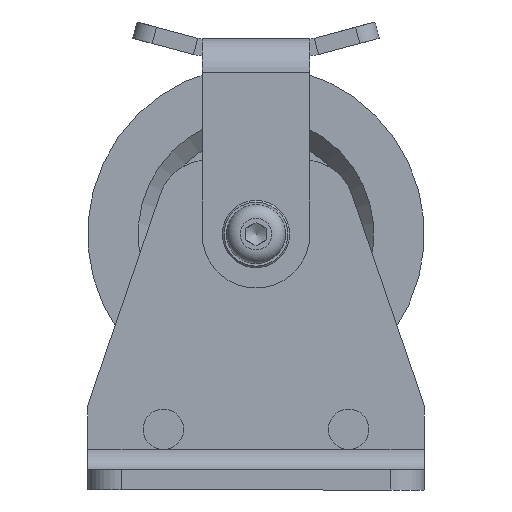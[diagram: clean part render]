
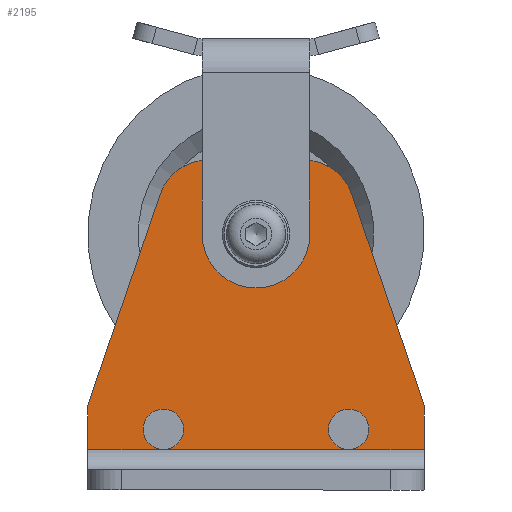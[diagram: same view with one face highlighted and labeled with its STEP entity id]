
A CAD part, front view. The second image highlights one B-rep face of the part: STEP entity #2195.
In plain terms, the highlighted planar face has unit normal (0, -1, 0) as drawn and (0, 0, 1) by its records, which use the part's own axes.
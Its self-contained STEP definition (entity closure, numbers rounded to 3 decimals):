
#133=FACE_BOUND('',#386,.T.);
#167=PLANE('',#2558);
#249=FACE_OUTER_BOUND('',#385,.T.);
#385=EDGE_LOOP('',(#1646,#1647,#1648,#1649,#1650,#1651,#1652,#1653,#1654,
#1655,#1656,#1657,#1658,#1659));
#386=EDGE_LOOP('',(#1660));
#538=LINE('',#3671,#697);
#539=LINE('',#3673,#698);
#540=LINE('',#3674,#699);
#543=LINE('',#3680,#702);
#551=LINE('',#3718,#710);
#555=LINE('',#3727,#714);
#558=LINE('',#3734,#717);
#559=LINE('',#3736,#718);
#697=VECTOR('',#2909,10.);
#698=VECTOR('',#2910,10.);
#699=VECTOR('',#2911,10.);
#702=VECTOR('',#2916,10.);
#710=VECTOR('',#2958,10.);
#714=VECTOR('',#2968,10.);
#717=VECTOR('',#2977,10.);
#718=VECTOR('',#2980,10.);
#844=CIRCLE('',#2543,6.);
#845=CIRCLE('',#2544,6.);
#846=CIRCLE('',#2546,6.);
#847=CIRCLE('',#2547,6.);
#848=CIRCLE('',#2549,5.2);
#849=CIRCLE('',#2552,15.);
#850=CIRCLE('',#2555,15.);
#1000=VERTEX_POINT('',#3661);
#1001=VERTEX_POINT('',#3665);
#1002=VERTEX_POINT('',#3670);
#1003=VERTEX_POINT('',#3672);
#1005=VERTEX_POINT('',#3678);
#1014=VERTEX_POINT('',#3702);
#1015=VERTEX_POINT('',#3707);
#1016=VERTEX_POINT('',#3712);
#1017=VERTEX_POINT('',#3716);
#1018=VERTEX_POINT('',#3717);
#1019=VERTEX_POINT('',#3722);
#1020=VERTEX_POINT('',#3726);
#1021=VERTEX_POINT('',#3730);
#1221=EDGE_CURVE('',#1002,#1001,#538,.T.);
#1222=EDGE_CURVE('',#1003,#1002,#539,.T.);
#1223=EDGE_CURVE('',#1000,#1003,#540,.T.);
#1226=EDGE_CURVE('',#1005,#1001,#543,.T.);
#1239=EDGE_CURVE('',#1002,#1014,#844,.T.);
#1240=EDGE_CURVE('',#1014,#1002,#845,.T.);
#1242=EDGE_CURVE('',#1003,#1015,#846,.T.);
#1243=EDGE_CURVE('',#1015,#1003,#847,.T.);
#1245=EDGE_CURVE('',#1016,#1016,#848,.T.);
#1246=EDGE_CURVE('',#1017,#1018,#551,.T.);
#1249=EDGE_CURVE('',#1018,#1019,#849,.T.);
#1251=EDGE_CURVE('',#1019,#1020,#555,.T.);
#1253=EDGE_CURVE('',#1020,#1021,#850,.T.);
#1255=EDGE_CURVE('',#1021,#1005,#558,.T.);
#1256=EDGE_CURVE('',#1000,#1017,#559,.T.);
#1646=ORIENTED_EDGE('',*,*,#1221,.T.);
#1647=ORIENTED_EDGE('',*,*,#1226,.F.);
#1648=ORIENTED_EDGE('',*,*,#1255,.F.);
#1649=ORIENTED_EDGE('',*,*,#1253,.F.);
#1650=ORIENTED_EDGE('',*,*,#1251,.F.);
#1651=ORIENTED_EDGE('',*,*,#1249,.F.);
#1652=ORIENTED_EDGE('',*,*,#1246,.F.);
#1653=ORIENTED_EDGE('',*,*,#1256,.F.);
#1654=ORIENTED_EDGE('',*,*,#1223,.T.);
#1655=ORIENTED_EDGE('',*,*,#1242,.T.);
#1656=ORIENTED_EDGE('',*,*,#1243,.T.);
#1657=ORIENTED_EDGE('',*,*,#1222,.T.);
#1658=ORIENTED_EDGE('',*,*,#1239,.T.);
#1659=ORIENTED_EDGE('',*,*,#1240,.T.);
#1660=ORIENTED_EDGE('',*,*,#1245,.T.);
#2195=ADVANCED_FACE('',(#249,#133),#167,.T.);
#2543=AXIS2_PLACEMENT_3D('',#3704,#2940,#2941);
#2544=AXIS2_PLACEMENT_3D('',#3705,#2942,#2943);
#2546=AXIS2_PLACEMENT_3D('',#3709,#2947,#2948);
#2547=AXIS2_PLACEMENT_3D('',#3710,#2949,#2950);
#2549=AXIS2_PLACEMENT_3D('',#3714,#2954,#2955);
#2552=AXIS2_PLACEMENT_3D('',#3723,#2963,#2964);
#2555=AXIS2_PLACEMENT_3D('',#3731,#2972,#2973);
#2558=AXIS2_PLACEMENT_3D('',#3737,#2981,#2982);
#2909=DIRECTION('',(1.,0.,0.));
#2910=DIRECTION('',(1.,0.,0.));
#2911=DIRECTION('',(1.,0.,0.));
#2916=DIRECTION('',(0.,-1.,0.));
#2940=DIRECTION('center_axis',(0.,0.,-1.));
#2941=DIRECTION('ref_axis',(-1.,0.,0.));
#2942=DIRECTION('center_axis',(0.,0.,-1.));
#2943=DIRECTION('ref_axis',(-1.,0.,0.));
#2947=DIRECTION('center_axis',(0.,0.,-1.));
#2948=DIRECTION('ref_axis',(-1.,0.,0.));
#2949=DIRECTION('center_axis',(0.,0.,-1.));
#2950=DIRECTION('ref_axis',(-1.,0.,0.));
#2954=DIRECTION('center_axis',(0.,0.,-1.));
#2955=DIRECTION('ref_axis',(-1.,0.,0.));
#2958=DIRECTION('',(0.324,0.946,0.));
#2963=DIRECTION('center_axis',(0.,0.,-1.));
#2964=DIRECTION('ref_axis',(0.,1.,0.));
#2968=DIRECTION('',(1.,0.,0.));
#2972=DIRECTION('center_axis',(0.,0.,-1.));
#2973=DIRECTION('ref_axis',(0.946,0.324,0.));
#2977=DIRECTION('',(0.324,-0.946,0.));
#2980=DIRECTION('',(0.,1.,0.));
#2981=DIRECTION('center_axis',(0.,0.,1.));
#2982=DIRECTION('ref_axis',(1.,0.,0.));
#3661=CARTESIAN_POINT('',(-50.,12.,6.));
#3665=CARTESIAN_POINT('',(50.,12.,6.));
#3670=CARTESIAN_POINT('',(27.5,12.,6.));
#3671=CARTESIAN_POINT('',(25.,12.,6.));
#3672=CARTESIAN_POINT('',(-27.5,12.,6.));
#3673=CARTESIAN_POINT('',(25.,12.,6.));
#3674=CARTESIAN_POINT('',(25.,12.,6.));
#3678=CARTESIAN_POINT('',(50.,25.,6.));
#3680=CARTESIAN_POINT('',(50.,0.,6.));
#3702=CARTESIAN_POINT('',(33.5,18.,6.));
#3704=CARTESIAN_POINT('Origin',(27.5,18.,6.));
#3705=CARTESIAN_POINT('Origin',(27.5,18.,6.));
#3707=CARTESIAN_POINT('',(-21.5,18.,6.));
#3709=CARTESIAN_POINT('Origin',(-27.5,18.,6.));
#3710=CARTESIAN_POINT('Origin',(-27.5,18.,6.));
#3712=CARTESIAN_POINT('',(5.2,76.,6.));
#3714=CARTESIAN_POINT('Origin',(0.,76.,6.));
#3716=CARTESIAN_POINT('',(-50.,25.,6.));
#3717=CARTESIAN_POINT('',(-28.473,87.86,6.));
#3718=CARTESIAN_POINT('',(-28.473,87.86,6.));
#3722=CARTESIAN_POINT('',(-14.282,98.,6.));
#3723=CARTESIAN_POINT('Origin',(-14.282,83.,6.));
#3726=CARTESIAN_POINT('',(14.282,98.,6.));
#3727=CARTESIAN_POINT('',(14.282,98.,6.));
#3730=CARTESIAN_POINT('',(28.473,87.86,6.));
#3731=CARTESIAN_POINT('Origin',(14.282,83.,6.));
#3734=CARTESIAN_POINT('',(50.,25.,6.));
#3736=CARTESIAN_POINT('',(-50.,25.,6.));
#3737=CARTESIAN_POINT('Origin',(0.,41.393,6.));
